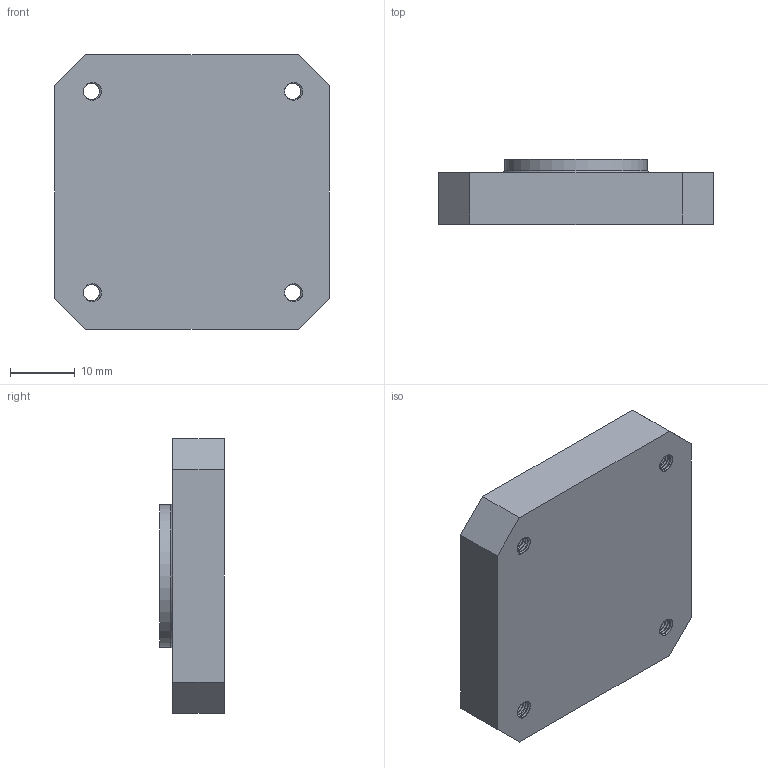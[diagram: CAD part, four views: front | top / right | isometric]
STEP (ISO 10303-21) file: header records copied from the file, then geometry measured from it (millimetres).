
FILE_DESCRIPTION(/* description */ ('STEP AP242 Edition 2','CAx-IF Rec.Pracs.---Representation and Presentation of Product Manufacturing Information (PMI)---4.0---2014-10-13','CAx-IF Rec.Pracs.---3D Tessellated Geometry---0.4---2014-09-14','2;1','CAx-IF Rec.Pracs.---User Defined Attributes---1.5---2016-08-15'),/* implementation_level */ '2;1');
FILE_NAME(/* name */ 'Assembly 1 - Body1 (5)',/* time_stamp */ '2026-09-25T20:07:09Z',/* author */ (''),/* organization */ (''),/* preprocessor_version */ 'ST-DEVELOPER v20',/* originating_system */ 'ONSHAPE BY PTC INC, 1.221',/* authorisation */ ' ');
FILE_SCHEMA (('AP242_MANAGED_MODEL_BASED_3D_ENGINEERING_MIM_LF { 1 0 10303 442 3 1 4 }'));
Products named in the file (1): Body1
Bounding box: 42.3 x 10 x 42.3 mm (x, y, z)
Volume: 14290.2 mm3; surface area: 5386.3 mm2
Topology: 1 solids, 1 shells, 33 faces, 340 edges, 312 vertices
Faces by surface type: plane 13, cylinder 11, bspline 8, torus 1
Full cylindrical faces by diameter (mm): 6 x1, 10 x1, 22 x1
Entity records: 37860 total; most frequent: CARTESIAN_POINT 35812, ORIENTED_EDGE 670, EDGE_CURVE 335, VERTEX_POINT 311, B_SPLINE_CURVE_WITH_KNOTS 288, DIRECTION 122, AXIS2_PLACEMENT_3D 49, EDGE_LOOP 48
